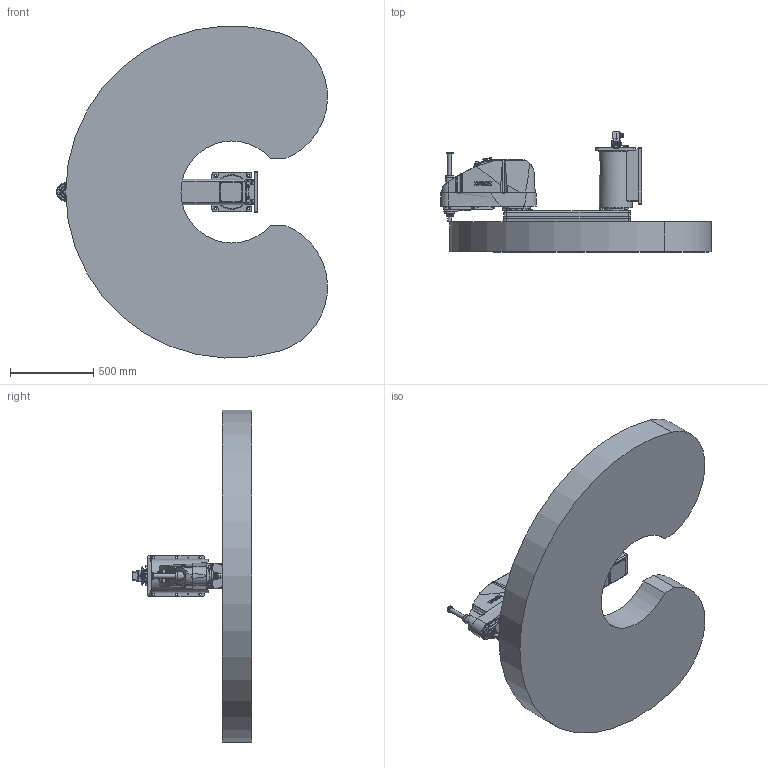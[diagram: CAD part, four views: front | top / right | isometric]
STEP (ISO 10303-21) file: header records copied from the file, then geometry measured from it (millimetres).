
FILE_DESCRIPTION( ( 'STEP AP214' ), '1' );
FILE_NAME( 'C:/Users/9607552/Desktop/GX20-BA01SW_langle.stp', '2023-08-01T09:47:45', ( '' ), ( '' ), ' ', 'PARTsolutions', ' ' );
FILE_SCHEMA( ( 'AUTOMOTIVE_DESIGN { 1 0 10303 214 1 1 1 1 }' ) );
Length unit declared in the file: millimetre
Products named in the file (7): GX20-BA01SWA-W; _Base sw; _Angle-B; _J1 Arm GX10-600 r/w; _J2 Arm GX10-s; _J3 Arm GX10-s (1); _GX10_20B-30_1
Assembly tree (6 placements, depth 2):
  GX20-BA01SWA-W
    _Base sw
    _Angle-B
    _J1 Arm GX10-600 r/w
    _J2 Arm GX10-s
    _J3 Arm GX10-s (1)
    _GX10_20B-30_1
Bounding box: 1630.39 x 721.6 x 1998.16 mm (x, y, z)
Volume: 434032668.8 mm3; surface area: 7249036.5 mm2
Topology: 6 solids, 6 shells, 2525 faces, 6201 edges, 4057 vertices
Faces by surface type: plane 1326, cylinder 802, cone 302, torus 62, bspline 32, sphere 1
Full cylindrical faces by diameter (mm): 1 x24, 1.18 x55, 2.5 x2, 3 x32, 3.242 x10, 3.3 x4, 4.2 x4, 4.8 x4, 5.1 x4, 5.25 x2, 5.34 x8, 5.4 x5, 5.5 x16, 6 x2, 6.2 x4, 6.647 x2, 6.8 x2, 7 x23, 7.59 x8, 8 x9, 8.5 x2, 9 x4, 10 x32, 11 x14, 12 x6, 12.25 x1, 13 x8, 14 x20, 14.25 x1, 16 x6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
Entity records: 95621 total; most frequent: CARTESIAN_POINT 17907, DIRECTION 11889, ORIENTED_EDGE 11000, EDGE_CURVE 5500, AXIS2_PLACEMENT_3D 4543, VERTEX_POINT 3968, EDGE_LOOP 3560, FACE_OUTER_BOUND 2920
